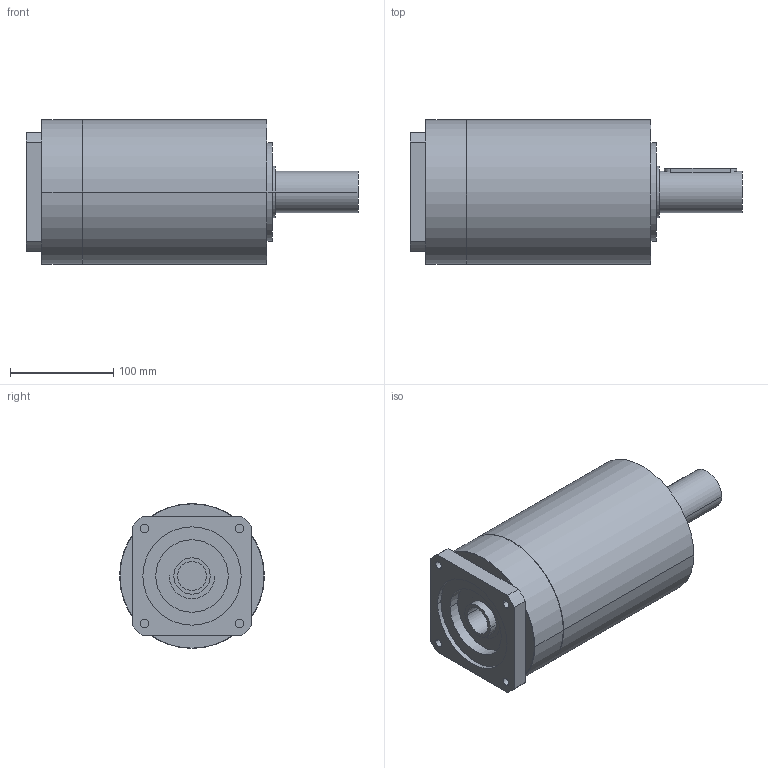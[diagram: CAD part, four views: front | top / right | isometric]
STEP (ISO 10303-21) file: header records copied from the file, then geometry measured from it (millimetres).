
FILE_DESCRIPTION(('CoCreate Modeling STEP Export'),'2;1');
FILE_NAME('GPR150_ig-9-12-16-20-28-35_40_B14_28_P10.stp','2014-08-19T17:03:50',(''),(''),'CoCreate Modeling STEP processor for AP214 (Solid Model)','CoCreate Modeling 16.00C 25-Feb-2009 (C) Parametric Technology GmbH','');
FILE_SCHEMA(('AUTOMOTIVE_DESIGN { 1 0 10303 214 1 1 1 1 }'));
Length unit declared in the file: millimetre
Products named in the file (2): GPR150_ig-9-12-16-20-28-35_40_B14_28_P10
Assembly tree (1 placements, depth 2):
  GPR150_ig-9-12-16-20-28-35_40_B14_28_P10
    GPR150_ig-9-12-16-20-28-35_40_B14_28_P10
Bounding box: 321 x 140 x 140 mm (x, y, z)
Volume: 3566802.8 mm3; surface area: 164609.1 mm2
Topology: 1 solids, 1 shells, 84 faces, 206 edges, 140 vertices
Faces by surface type: cylinder 44, plane 34, cone 6
Entity records: 2116 total; most frequent: ORIENTED_EDGE 408, CARTESIAN_POINT 403, DIRECTION 278, EDGE_CURVE 204, VERTEX_POINT 140, AXIS2_PLACEMENT_3D 103, EDGE_LOOP 102, FACE_OUTER_BOUND 84
